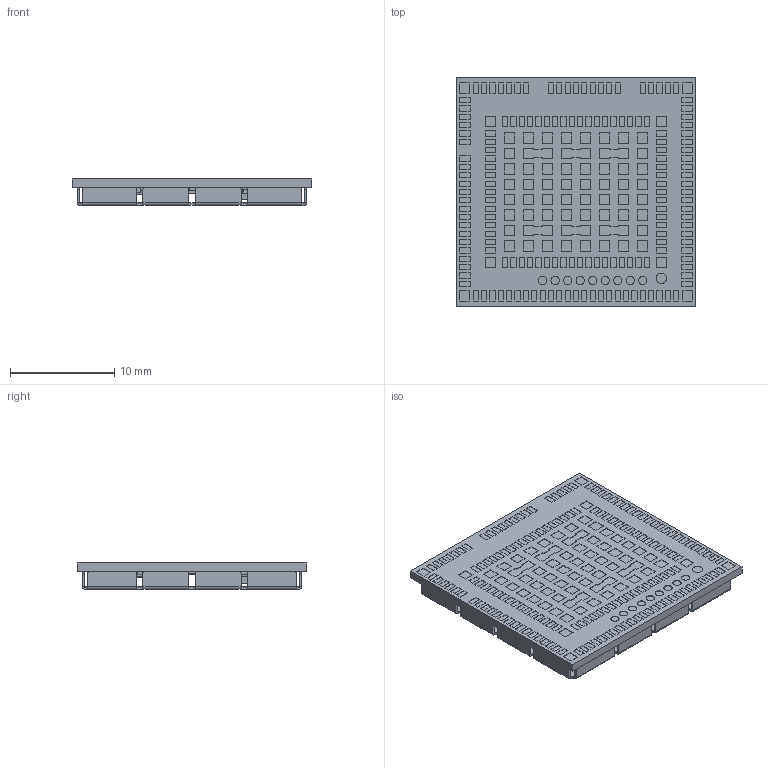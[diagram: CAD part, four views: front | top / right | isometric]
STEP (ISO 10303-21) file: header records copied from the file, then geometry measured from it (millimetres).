
FILE_DESCRIPTION((''),'2;1');
FILE_NAME('IE12_PCB_ASSY_ASM','2023-07-19T',('AriesIC_Lin'),(''),'PRO/ENGINEER BY PARAMETRIC TECHNOLOGY CORPORATION, 2017170','PRO/ENGINEER BY PARAMETRIC TECHNOLOGY CORPORATION, 2017170','');
FILE_SCHEMA(('CONFIG_CONTROL_DESIGN'));
Products named in the file (37): IE12_PCB; FILT_SAYRZ1G95BA0E0A_8P_SMD; L_01005_H0P22_SMD; FILT_B39182B1290L210_8P_SMD; L_01005_SMD; R_NCP03WF104F05RL_0201_SMD; XTAL_8Y26002001_4P_SMD; XTAL_Q-SC20S03220C5AAAF_2P_SMD; C_GRM033R60J105MEA2D_SMD; IC_QCX-216-0_CSP_134P_IE12; D_SESDMS05LC-TH-WS_2P_SMD; IC_QPA-8675-0-52-LGA-TR-01-0_52; FILT_B39272B1261P810_8P_SMD; FILT_B39781B1250P810S_8P_SMD; IC_SKY13418-485LF_QFN_14P_SMD; Q_DMN3060LCA3_3P_SMD; L_MPH201210S1R0MT_2P_SMD; L_MPH160809SR47MT_2P_SMD; FILT_B39851B1256L210_8P_SMD; FILT_B39941B1257P810_8P_SMD; FILT_B39781B1228P810_8P_SMD; FILT_B39681B1266P810_8P_SMD; ESD_ESD5611N-2-TR_2P_SMD; ESD_CPDZC2V5AHT-HF_DFN0603_2P_S; C_0402_SMD; IC_AW13612FLR_6P_SMD; FILT_B39242B8883L210_4P_SMD; R_01005_SMD; L_0201_SMD; C_01005_SMD; C_0201_SMD; R_0201_SMD; IE12_GA-688_0A_2023-0621-1500_ASM; IE12_LGA_PCB_EMN_ASSY_ASM; IE12_PCB_FRAME-1; IE12_LGA_SHIELDING-CASE_ASSY_ASM; IE12_PCB_ASSY_ASM
Assembly tree (279 placements, depth 4):
  IE12_PCB_ASSY_ASM
    IE12_PCB
    IE12_LGA_PCB_EMN_ASSY_ASM
      IE12_GA-688_0A_2023-0621-1500_ASM
        FILT_SAYRZ1G95BA0E0A_8P_SMD
        L_01005_H0P22_SMD  x2
        FILT_B39182B1290L210_8P_SMD
        L_01005_SMD  x2
        R_NCP03WF104F05RL_0201_SMD
        XTAL_8Y26002001_4P_SMD
        XTAL_Q-SC20S03220C5AAAF_2P_SMD
        C_GRM033R60J105MEA2D_SMD  x8
        IC_QCX-216-0_CSP_134P_IE12
        D_SESDMS05LC-TH-WS_2P_SMD
        IC_QPA-8675-0-52-LGA-TR-01-0_52
        FILT_B39272B1261P810_8P_SMD
        FILT_B39781B1250P810S_8P_SMD
        IC_SKY13418-485LF_QFN_14P_SMD
        Q_DMN3060LCA3_3P_SMD  x2
        L_MPH201210S1R0MT_2P_SMD
        L_MPH160809SR47MT_2P_SMD
        FILT_B39851B1256L210_8P_SMD
        FILT_B39941B1257P810_8P_SMD
        FILT_B39781B1228P810_8P_SMD
        FILT_B39681B1266P810_8P_SMD
        ESD_ESD5611N-2-TR_2P_SMD  x3
        ESD_CPDZC2V5AHT-HF_DFN0603_2P_S
        C_0402_SMD  x7
        IC_AW13612FLR_6P_SMD
        FILT_B39242B8883L210_4P_SMD
        R_01005_SMD  x20
        L_0201_SMD  x42
        C_01005_SMD  x34
        C_0201_SMD  x124
        R_0201_SMD  x10
    IE12_LGA_SHIELDING-CASE_ASSY_ASM
      IE12_PCB_FRAME-1
Bounding box: 23 x 22 x 2.5 mm (x, y, z)
Volume: 644.2 mm3; surface area: 3085.5 mm2
Topology: 276 solids, 276 shells, 3167 faces, 6970 edges, 4604 vertices
Faces by surface type: plane 3061, cylinder 106
Entity records: 64485 total; most frequent: CARTESIAN_POINT 9015, DIRECTION 8868, ORIENTED_EDGE 8108, EDGE_CURVE 4054, VECTOR 3842, LINE 3842, PRESENTATION_STYLE_ASSIGNMENT 3340, STYLED_ITEM 3085
